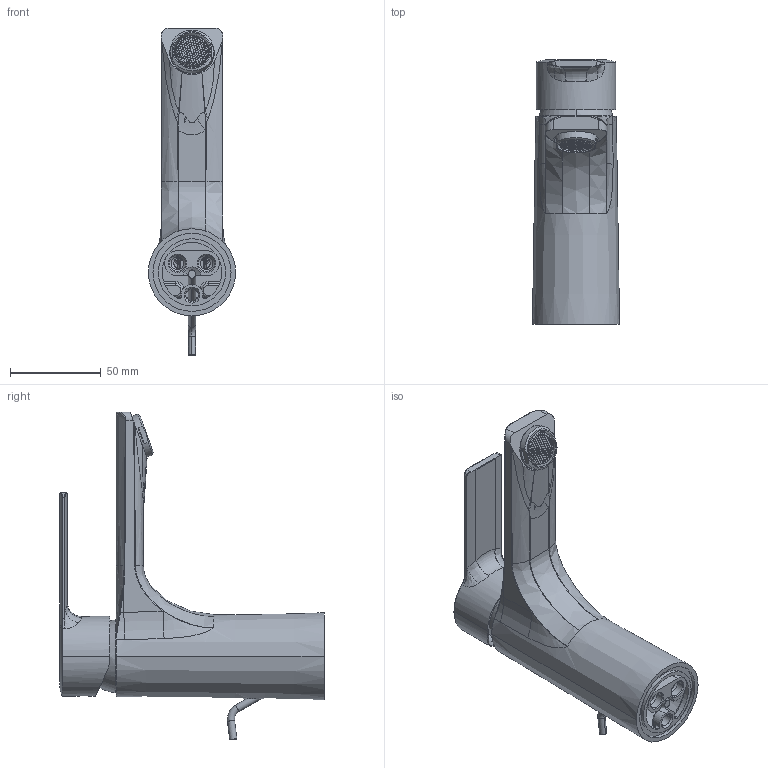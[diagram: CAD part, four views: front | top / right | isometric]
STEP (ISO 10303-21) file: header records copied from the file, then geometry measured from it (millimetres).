
FILE_DESCRIPTION((''),'2;1');
FILE_NAME('F3131CR_FILE_3D','2017-03-27T',('ivanv'),(''),'CREO PARAMETRIC BY PTC INC, 2016260','CREO PARAMETRIC BY PTC INC, 2016260','');
FILE_SCHEMA(('CONFIG_CONTROL_DESIGN'));
Products named in the file (1): F3131CR_FILE_3D
Bounding box: 48 x 145.5 x 180.53 mm (x, y, z)
Volume: 123937.3 mm3; surface area: 84416.4 mm2
Topology: 3 solids, 3 shells, 5065 faces, 13360 edges, 8776 vertices
Faces by surface type: plane 3247, cylinder 902, cone 488, bspline 241, torus 86, extrusion 79, sphere 22
Entity records: 197894 total; most frequent: CARTESIAN_POINT 85093, ORIENTED_EDGE 26698, DIRECTION 17569, EDGE_CURVE 13349, VERTEX_POINT 8776, B_SPLINE_CURVE_WITH_KNOTS 6437, VECTOR 6061, LINE 5982
